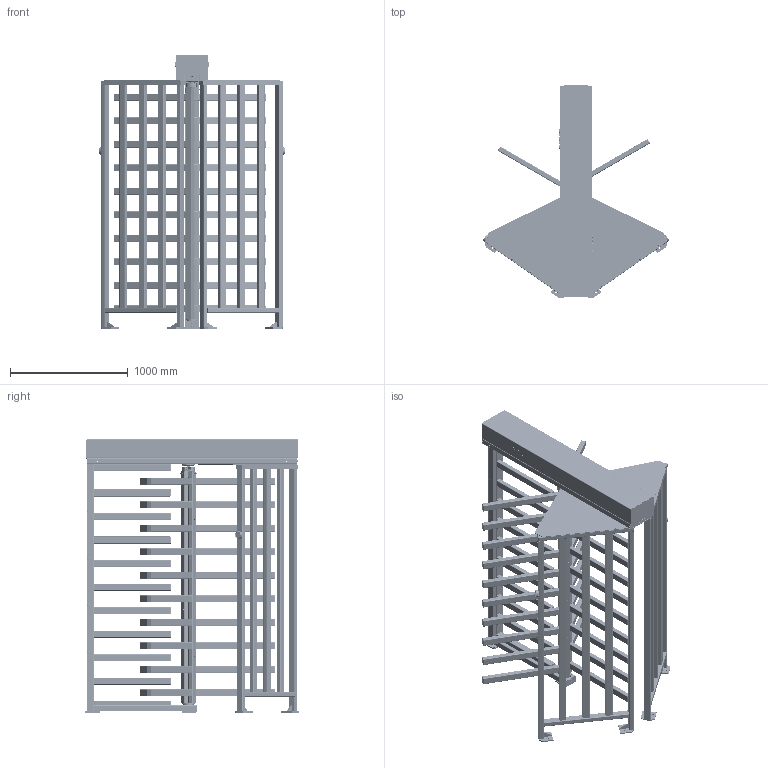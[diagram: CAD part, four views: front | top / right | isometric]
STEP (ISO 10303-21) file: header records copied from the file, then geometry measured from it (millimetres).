
FILE_DESCRIPTION(/* description */ ('Unknown'),/* implementation_level */ '2;1');
FILE_NAME(/* name */ 'RTD-15.3',/* time_stamp */ '2021-11-23T11:51:01+03:00',/* author */ ('Unknown'),/* organization */ ('Unknown'),/* preprocessor_version */ 'ST-DEVELOPER v18.1',/* originating_system */ 'Solid Edge',/* authorisation */ 'Unknown');
FILE_SCHEMA (('CONFIG_CONTROL_DESIGN'));
Products named in the file (83): 栖闉罻1; RTD-15.3_oa_0; RTD-15.100.00 匎襜禬oa_1; RTD-15.156.00 ﾑ裲 _oa_2; RTD-15.156.01 栺鍣罻 豂襜譇_r1; RTD-15.156.02 砑鳧罻; RTD-15.000.01 Çàãëóøêà 60õ40; RTD-15.156.04 砑僔蠂縺; RTD-16.1.101.03 婑鳧氀 瞂贂膻嶱r3; RTD-16.1.101.02 婑鳧氀 膻緱鴇_r4; RTD-15.155.09 侲膹馯罻; RTD-15.155.21 Øâåëëåð; Çàãëóøêà 62MP0625 (d îòâ. 16, ÷åðíàÿ); 嵑殧趌8_DIN_125; 嵑殧趌8_DIN_7980; 鎔艜_M8x55_DIN_912; RTD-15.156.00 ﾑ裲 ; RTD-15.155.08 砐鋹檍鐍趌r6; 嵑殧趌8_DIN_127; 鎔艜_M8x30_DIN_912_鐕嚪._12.9; RTD-15.265.00 Ñòîéêà ñ ïðåãðàæäàþùèìè ïëàíêàìè_oa_3; RTD-15.265.01 栺鍣罻; RTD-15.265.02 砑鳧罻; RTD-15.265.03 Ñòîéêà âñïîìîãàòåëüíàÿ; RTD-15.265.04-01 Ïëàñòèíà êðåïåæíàÿ; RTD-15.265.06 扻豂塺r1; RTD-15.265.16-01 砑僔蠂縺; RTD-15.265.10 Ñòîéêà âñïîìîãàòåëüíàÿ; RTD-15.265.11 砑鳧罻; Çàãëóøêà 62ÌÐ0687 (d îòâ. 17,4, ÷åðíàÿ); RTD-15.265.12 咍嚦; RTD-15.265.14 砑鳧罻; RTD-15.265.15 砑僔蠂縺; RTD-15.1.3.300.00 Áàëêà ïðèâîäà òóðíèêåòà RTD-15.1 äëÿ êðûøè RTC-15.3
_oa_4; RTD-15.3.310.00 忺謤僔 摳鍆醂oa_5; RTD-15.3.320.00 暑痫篑 磬痼骓_oa_6; RTD-15.3.320.01 扻豵鵨_oa_7; RTD-15.3.320.02 青汶篪赅; RTD-15.3.320.02-01 青汶篪赅; RTD-16.1.280.00 体踵龛珈 桉镱腠栩咫_oa_8 ...
Assembly tree (256 placements, depth 7):
  栖闉罻1
    RTD-15.3_oa_0
      RTD-15.100.00 匎襜禬oa_1
        RTD-15.156.00 ﾑ裲 _oa_2
          RTD-15.156.01 栺鍣罻 豂襜譇_r1
          RTD-15.156.02 砑鳧罻  x10
          RTD-15.000.01 Çàãëóøêà 60õ40  x10
          RTD-15.156.04 砑僔蠂縺
        RTD-16.1.101.03 婑鳧氀 瞂贂膻嶱r3
        RTD-16.1.101.02 婑鳧氀 膻緱鴇_r4
        RTD-15.155.09 侲膹馯罻
        RTD-15.155.21 Øâåëëåð  x3
        Çàãëóøêà 62MP0625 (d îòâ. 16, ÷åðíàÿ)  x30
        嵑殧趌8_DIN_125  x6
        嵑殧趌8_DIN_7980  x6
        鎔艜_M8x55_DIN_912  x6
        RTD-15.156.00 ﾑ裲   x2
          RTD-15.156.01 栺鍣罻 豂襜譇_r1
          RTD-15.156.02 砑鳧罻
          RTD-15.000.01 Çàãëóøêà 60õ40
          RTD-15.156.04 砑僔蠂縺
      RTD-15.155.08 砐鋹檍鐍趌r6  x2
      嵑殧趌8_DIN_127  x4
      鎔艜_M8x30_DIN_912_鐕嚪._12.9  x4
      RTD-15.265.00 Ñòîéêà ñ ïðåãðàæäàþùèìè ïëàíêàìè_oa_3
        RTD-15.265.01 栺鍣罻
        RTD-15.265.02 砑鳧罻  x9
        RTD-15.265.03 Ñòîéêà âñïîìîãàòåëüíàÿ
        RTD-15.265.04-01 Ïëàñòèíà êðåïåæíàÿ
        RTD-15.000.01 Çàãëóøêà 60õ40  x12
        RTD-15.265.06 扻豂塺r1
        RTD-15.265.16-01 砑僔蠂縺
        RTD-15.265.10 Ñòîéêà âñïîìîãàòåëüíàÿ
        RTD-15.265.11 砑鳧罻
        Çàãëóøêà 62ÌÐ0687 (d îòâ. 17,4, ÷åðíàÿ)  x12
        RTD-15.265.12 咍嚦
        RTD-15.265.14 砑鳧罻
        RTD-15.265.15 砑僔蠂縺
      RTD-15.1.3.300.00 Áàëêà ïðèâîäà òóðíèêåòà RTD-15.1 äëÿ êðûøè RTC-15.3
_oa_4
        RTD-15.3.310.00 忺謤僔 摳鍆醂oa_5
          RTD-15.3.320.00 暑痫篑 磬痼骓_oa_6
            RTD-15.3.320.01 扻豵鵨_oa_7
            RTD-15.3.320.02 青汶篪赅  x2
            RTD-15.3.320.02-01 青汶篪赅  x2
        RTD-16.1.280.00 体踵龛珈 桉镱腠栩咫_oa_8
          RTD-12.1.601.03 C蠉罻燲r4
          RTD-15.482.00 Óçåë âðàùåíèÿ_oa_9
            RTD-15.482.01 轉螒r3
          RTD-16.1.253.00 青祛阓oa_10
            青祛阓鲤祚蝠铐鉥50822_oa_11
              Çàìîê Àðìñòðîíã 50822_êîðïóñ
          RTD-16.1.253.00-01 青祛阓oa_12
            青祛阓鲤祚蝠铐鉥50822_oa_13
              Çàìîê Àðìñòðîíã 50822_êîðïóñ
        RTD-15.3.366.00 Êðûøêà ñ ëîãîòèïîì_oa_14
          RTD-15.3.365.00 署赅
            RTD-15.3.365.01 扻豵鵨
            RTD-15.3.365.02 栺樇罻  x2
          RTD-15.366.01 Áóêâû ëîãîòèïà. Êîìïëåêò  x2
          RTD-15.366.02 Ëîãîòèï êëååâîé. Êîìïëåêò  x2
Bounding box: 1588.94 x 1812.17 x 2324 mm (x, y, z)
Volume: 54043979.2 mm3; surface area: 34184439.8 mm2
Topology: 268 solids, 268 shells, 10599 faces, 26334 edges, 17062 vertices
Faces by surface type: plane 4430, cylinder 4189, torus 1681, cone 147, bspline 140, sphere 12
Full cylindrical faces by diameter (mm): 1.2 x8, 2.4 x50, 3 x4, 3.242 x8, 3.5 x4, 4 x8, 4.3 x8, 4.773 x8, 4.917 x8, 5 x40, 6 x20, 6.466 x10, 6.5 x8, 6.647 x33, 7 x12, 8 x20, 8.4 x6, 9 x42, 10 x64, 10.2 x2, 11 x2, 12 x6, 12.2 x6, 13 x58, 13.5 x4, 15 x20, 15.5 x8, 15.8 x6, 16 x72, 17 x15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
Entity records: 62758 total; most frequent: CARTESIAN_POINT 13703, DIRECTION 9528, ORIENTED_EDGE 8266, EDGE_CURVE 4133, AXIS2_PLACEMENT_3D 3616, VERTEX_POINT 2940, FACE_BOUND 2935, EDGE_LOOP 2922
